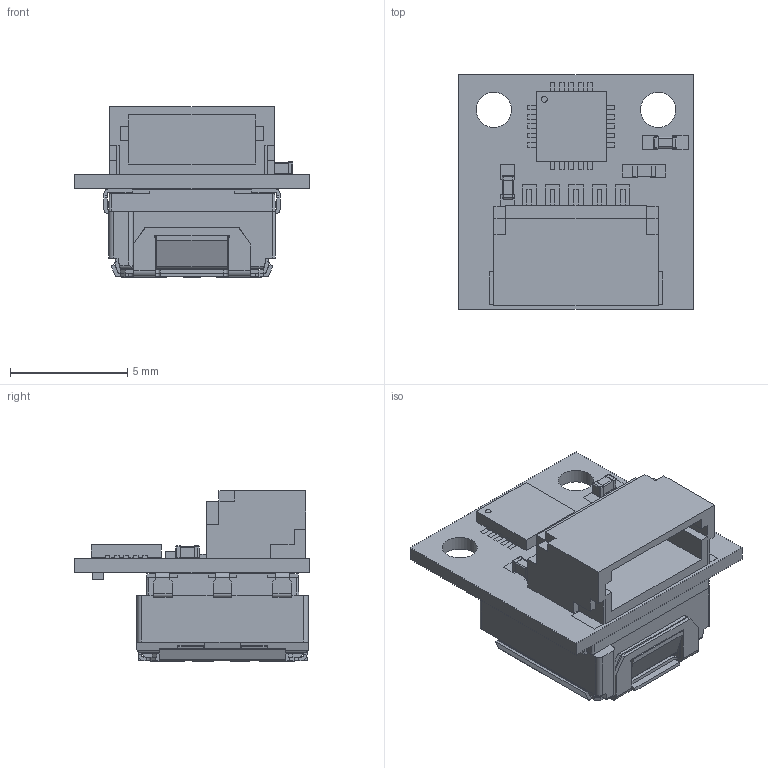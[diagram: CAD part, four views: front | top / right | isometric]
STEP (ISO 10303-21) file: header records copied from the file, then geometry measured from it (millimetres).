
FILE_DESCRIPTION(('FreeCAD Model'),'2;1');
FILE_NAME('/home/devy/MEGA/TinyCircuits/Assets/BoardsANDBoardModels_2/Wirelings/TinyCircuits-Wireling-Rotary_Switch-AST1020/cad/Wireling_ROTARY_AST1020_REV3-STEP.step','2020-07-29T13:19:38',(''),(''), 'Open CASCADE STEP processor 7.4','FreeCAD','Unknown');
FILE_SCHEMA(('AUTOMOTIVE_DESIGN { 1 0 10303 214 1 1 1 1 }'));
Products named in the file (1): Wireling_ROTARY_AST1020_REV3-STEP
Bounding box: 10 x 10 x 7.26 mm (x, y, z)
Volume: 502.8 mm3; surface area: 1493.7 mm2
Topology: 79 solids, 79 shells, 3220 faces, 9484 edges, 6994 vertices
Faces by surface type: plane 2872, cylinder 308, sphere 32, cone 8
Full cylindrical faces by diameter (mm): 1.2 x2, 1.502 x2, 3.28 x2, 3.3 x2, 3.4 x2, 3.42 x2, 4 x2
Entity records: 248121 total; most frequent: CARTESIAN_POINT 40447, DIRECTION 33988, LINE 25390, VECTOR 25390, ORIENTED_EDGE 17688, PCURVE 17688, DEFINITIONAL_REPRESENTATION 17688, EDGE_CURVE 8844
